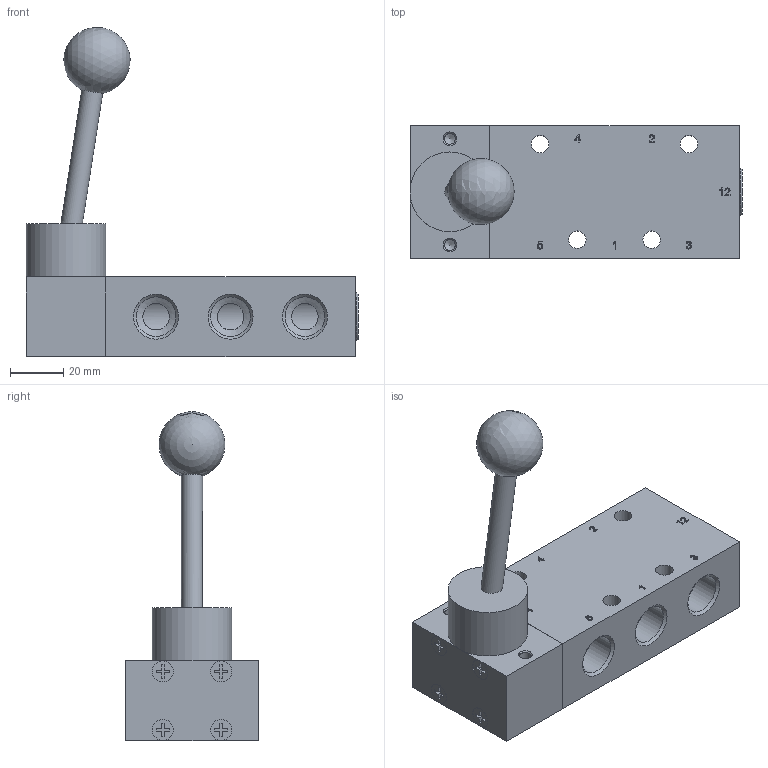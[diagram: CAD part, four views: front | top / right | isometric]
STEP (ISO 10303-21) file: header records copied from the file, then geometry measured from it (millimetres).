
FILE_DESCRIPTION(/* description */ ('Unknown','CAx-IF Rec.Pracs.---Representation and Presentation of Product Manufacturing Information (PMI)---4.0---2014-10-13','CAx-IF Rec.Pracs.---3D Tessellated Geometry---0.4---2014-09-14','2;1'),/* implementation_level */ '2;1');
FILE_NAME(/* name */ 'HV 511 101',/* time_stamp */ '2020-07-03T13:54:46+02:00',/* author */ ('Unknown'),/* organization */ ('Unknown'),/* preprocessor_version */ 'ST-DEVELOPER v16.7',/* originating_system */ 'DEX',/* authorisation */ $);
FILE_SCHEMA (('AP242_MANAGED_MODEL_BASED_3D_ENGINEERING_MIM_LF { 1 0 10303 442 20130219 1 4 }'));
Length unit declared in the file: millimetre
Products named in the file (2): HV 511 101
Assembly tree (1 placements, depth 2):
  HV 511 101
    HV 511 101
Bounding box: 125 x 50 x 123.9 mm (x, y, z)
Volume: 167558.7 mm3; surface area: 43981.6 mm2
Topology: 3 solids, 3 shells, 327 faces, 846 edges, 559 vertices
Faces by surface type: plane 220, cylinder 46, bspline 32, cone 27, sphere 1, torus 1
Full cylindrical faces by diameter (mm): 1.6 x1, 3.242 x8, 4.134 x4, 6.6 x4, 7.9 x4, 8 x1, 10 x5, 13 x1, 14 x1, 14.95 x10, 17 x2, 17.06 x1, 18 x1, 30 x1
Entity records: 12887 total; most frequent: CARTESIAN_POINT 3277, ORIENTED_EDGE 1466, DIRECTION 1352, EDGE_CURVE 733, LINE 570, VECTOR 570, VERTEX_POINT 525, FACE_BOUND 462
